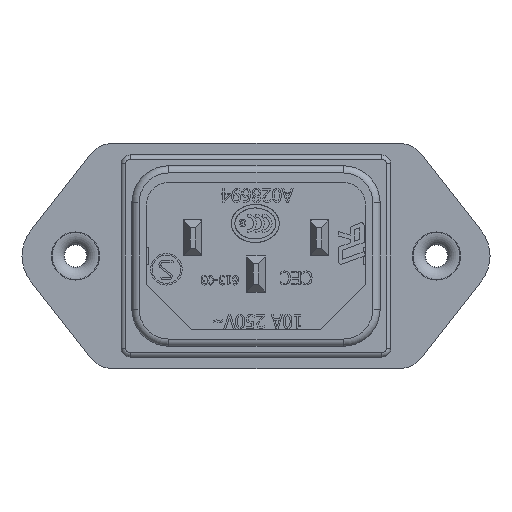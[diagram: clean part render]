
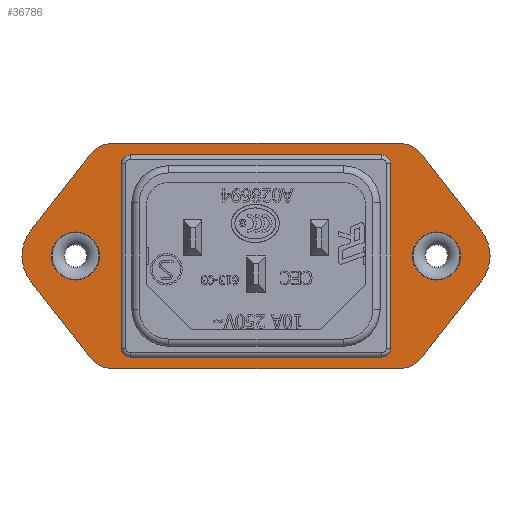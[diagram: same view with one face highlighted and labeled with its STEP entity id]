
A CAD part, front view. The second image highlights one B-rep face of the part: STEP entity #36786.
In plain terms, the highlighted planar face has unit normal (0, -1, 0).
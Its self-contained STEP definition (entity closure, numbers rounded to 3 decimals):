
#2384=LINE('',#50854,#6242);
#2388=LINE('',#50863,#6246);
#4877=LINE('',#61762,#8735);
#4880=LINE('',#61769,#8738);
#4946=LINE('',#61952,#8804);
#4947=LINE('',#61956,#8805);
#4948=LINE('',#61960,#8806);
#4949=LINE('',#61964,#8807);
#4950=LINE('',#61968,#8808);
#4951=LINE('',#61971,#8809);
#6242=VECTOR('',#41791,10.);
#6246=VECTOR('',#41801,10.);
#8735=VECTOR('',#46180,10.);
#8738=VECTOR('',#46189,10.);
#8804=VECTOR('',#46361,10.);
#8805=VECTOR('',#46364,10.);
#8806=VECTOR('',#46367,10.);
#8807=VECTOR('',#46370,10.);
#8808=VECTOR('',#46373,10.);
#8809=VECTOR('',#46376,10.);
#11021=FACE_BOUND('',#14812,.T.);
#11022=FACE_BOUND('',#14813,.T.);
#11023=FACE_BOUND('',#14814,.T.);
#12803=FACE_OUTER_BOUND('',#14811,.T.);
#14811=EDGE_LOOP('',(#33412,#33413,#33414,#33415,#33416,#33417,#33418,#33419,
#33420,#33421,#33422,#33423));
#14812=EDGE_LOOP('',(#33424,#33425,#33426,#33427,#33428,#33429,#33430,#33431));
#14813=EDGE_LOOP('',(#33432));
#14814=EDGE_LOOP('',(#33433));
#15155=CIRCLE('',#37714,1.);
#15156=CIRCLE('',#37717,1.);
#15248=CIRCLE('',#38659,1.);
#15249=CIRCLE('',#38662,1.);
#15270=CIRCLE('',#38714,2.664);
#15271=CIRCLE('',#38716,4.5);
#15272=CIRCLE('',#38717,3.281);
#15273=CIRCLE('',#38718,3.281);
#15274=CIRCLE('',#38719,4.5);
#15275=CIRCLE('',#38720,3.281);
#15276=CIRCLE('',#38721,3.281);
#15277=CIRCLE('',#38722,2.664);
#16439=VERTEX_POINT('',#50851);
#16440=VERTEX_POINT('',#50853);
#16441=VERTEX_POINT('',#50857);
#16442=VERTEX_POINT('',#50861);
#16443=VERTEX_POINT('',#50865);
#18545=VERTEX_POINT('',#61757);
#18546=VERTEX_POINT('',#61761);
#18547=VERTEX_POINT('',#61765);
#18608=VERTEX_POINT('',#61945);
#18609=VERTEX_POINT('',#61948);
#18610=VERTEX_POINT('',#61949);
#18611=VERTEX_POINT('',#61951);
#18612=VERTEX_POINT('',#61953);
#18613=VERTEX_POINT('',#61955);
#18614=VERTEX_POINT('',#61957);
#18615=VERTEX_POINT('',#61959);
#18616=VERTEX_POINT('',#61961);
#18617=VERTEX_POINT('',#61963);
#18618=VERTEX_POINT('',#61965);
#18619=VERTEX_POINT('',#61967);
#18620=VERTEX_POINT('',#61969);
#18621=VERTEX_POINT('',#61972);
#20300=EDGE_CURVE('',#16440,#16439,#2384,.T.);
#20303=EDGE_CURVE('',#16439,#16441,#15155,.T.);
#20305=EDGE_CURVE('',#16441,#16442,#2388,.T.);
#20307=EDGE_CURVE('',#16442,#16443,#15156,.T.);
#23485=EDGE_CURVE('',#18545,#16440,#15248,.T.);
#23487=EDGE_CURVE('',#18546,#18545,#4877,.T.);
#23489=EDGE_CURVE('',#18547,#18546,#15249,.T.);
#23491=EDGE_CURVE('',#16443,#18547,#4880,.T.);
#23577=EDGE_CURVE('',#18608,#18608,#15270,.T.);
#23578=EDGE_CURVE('',#18609,#18610,#15271,.T.);
#23579=EDGE_CURVE('',#18611,#18610,#4946,.T.);
#23580=EDGE_CURVE('',#18612,#18611,#15272,.T.);
#23581=EDGE_CURVE('',#18613,#18612,#4947,.T.);
#23582=EDGE_CURVE('',#18613,#18614,#15273,.T.);
#23583=EDGE_CURVE('',#18614,#18615,#4948,.T.);
#23584=EDGE_CURVE('',#18615,#18616,#15274,.T.);
#23585=EDGE_CURVE('',#18617,#18616,#4949,.T.);
#23586=EDGE_CURVE('',#18618,#18617,#15275,.T.);
#23587=EDGE_CURVE('',#18619,#18618,#4950,.T.);
#23588=EDGE_CURVE('',#18619,#18620,#15276,.T.);
#23589=EDGE_CURVE('',#18620,#18609,#4951,.T.);
#23590=EDGE_CURVE('',#18621,#18621,#15277,.T.);
#33412=ORIENTED_EDGE('',*,*,#23578,.T.);
#33413=ORIENTED_EDGE('',*,*,#23579,.F.);
#33414=ORIENTED_EDGE('',*,*,#23580,.F.);
#33415=ORIENTED_EDGE('',*,*,#23581,.F.);
#33416=ORIENTED_EDGE('',*,*,#23582,.T.);
#33417=ORIENTED_EDGE('',*,*,#23583,.T.);
#33418=ORIENTED_EDGE('',*,*,#23584,.T.);
#33419=ORIENTED_EDGE('',*,*,#23585,.F.);
#33420=ORIENTED_EDGE('',*,*,#23586,.F.);
#33421=ORIENTED_EDGE('',*,*,#23587,.F.);
#33422=ORIENTED_EDGE('',*,*,#23588,.T.);
#33423=ORIENTED_EDGE('',*,*,#23589,.T.);
#33424=ORIENTED_EDGE('',*,*,#20300,.T.);
#33425=ORIENTED_EDGE('',*,*,#20303,.T.);
#33426=ORIENTED_EDGE('',*,*,#20305,.T.);
#33427=ORIENTED_EDGE('',*,*,#20307,.T.);
#33428=ORIENTED_EDGE('',*,*,#23491,.T.);
#33429=ORIENTED_EDGE('',*,*,#23489,.T.);
#33430=ORIENTED_EDGE('',*,*,#23487,.T.);
#33431=ORIENTED_EDGE('',*,*,#23485,.T.);
#33432=ORIENTED_EDGE('',*,*,#23590,.F.);
#33433=ORIENTED_EDGE('',*,*,#23577,.F.);
#35005=PLANE('',#38715);
#36786=ADVANCED_FACE('',(#12803,#11021,#11022,#11023),#35005,.T.);
#37714=AXIS2_PLACEMENT_3D('',#50859,#41796,#41797);
#37717=AXIS2_PLACEMENT_3D('',#50867,#41805,#41806);
#38659=AXIS2_PLACEMENT_3D('',#61758,#46175,#46176);
#38662=AXIS2_PLACEMENT_3D('',#61766,#46184,#46185);
#38714=AXIS2_PLACEMENT_3D('',#61946,#46355,#46356);
#38715=AXIS2_PLACEMENT_3D('',#61947,#46357,#46358);
#38716=AXIS2_PLACEMENT_3D('',#61950,#46359,#46360);
#38717=AXIS2_PLACEMENT_3D('',#61954,#46362,#46363);
#38718=AXIS2_PLACEMENT_3D('',#61958,#46365,#46366);
#38719=AXIS2_PLACEMENT_3D('',#61962,#46368,#46369);
#38720=AXIS2_PLACEMENT_3D('',#61966,#46371,#46372);
#38721=AXIS2_PLACEMENT_3D('',#61970,#46374,#46375);
#38722=AXIS2_PLACEMENT_3D('',#61973,#46377,#46378);
#41791=DIRECTION('',(1.,0.,0.));
#41796=DIRECTION('center_axis',(0.,1.,0.));
#41797=DIRECTION('ref_axis',(-1.,0.,0.));
#41801=DIRECTION('',(0.,0.,-1.));
#41805=DIRECTION('center_axis',(0.,1.,0.));
#41806=DIRECTION('ref_axis',(0.,0.,
1.));
#46175=DIRECTION('center_axis',(0.,1.,0.));
#46176=DIRECTION('ref_axis',(0.,0.,
-1.));
#46180=DIRECTION('',(0.,0.,1.));
#46184=DIRECTION('center_axis',(0.,1.,0.));
#46185=DIRECTION('ref_axis',(1.,0.,0.));
#46189=DIRECTION('',(-1.,0.,0.));
#46355=DIRECTION('center_axis',(0.,-1.,0.));
#46356=DIRECTION('ref_axis',(-1.,0.,0.));
#46357=DIRECTION('center_axis',(0.,-1.,0.));
#46358=DIRECTION('ref_axis',(1.,0.,0.));
#46359=DIRECTION('center_axis',(0.,-1.,0.));
#46360=DIRECTION('ref_axis',(0.788,0.,-0.616));
#46361=DIRECTION('',(0.616,0.,-0.788));
#46362=DIRECTION('center_axis',(0.,1.,0.));
#46363=DIRECTION('ref_axis',(0.,0.,
1.));
#46364=DIRECTION('',(1.,0.,0.));
#46365=DIRECTION('center_axis',(0.,-1.,0.));
#46366=DIRECTION('ref_axis',(0.,0.,
1.));
#46367=DIRECTION('',(-0.616,0.,-0.788));
#46368=DIRECTION('center_axis',(0.,-1.,0.));
#46369=DIRECTION('ref_axis',(-0.788,0.,0.616));
#46370=DIRECTION('',(-0.616,0.,0.788));
#46371=DIRECTION('center_axis',(0.,1.,0.));
#46372=DIRECTION('ref_axis',(0.,0.,
-1.));
#46373=DIRECTION('',(-1.,0.,0.));
#46374=DIRECTION('center_axis',(0.,-1.,0.));
#46375=DIRECTION('ref_axis',(0.,0.,
-1.));
#46376=DIRECTION('',(0.616,0.,0.788));
#46377=DIRECTION('center_axis',(0.,-1.,0.));
#46378=DIRECTION('ref_axis',(1.,0.,0.));
#50851=CARTESIAN_POINT('',(3.847,-16.668,11.368));
#50853=CARTESIAN_POINT('',(-24.053,-16.668,11.368));
#50854=CARTESIAN_POINT('',(-23.716,-16.668,11.368));
#50857=CARTESIAN_POINT('',(4.847,-16.668,10.368));
#50859=CARTESIAN_POINT('Origin',(3.847,-16.668,10.368));
#50861=CARTESIAN_POINT('',(4.847,-16.668,-10.032));
#50863=CARTESIAN_POINT('',(4.847,-16.668,8.919));
#50865=CARTESIAN_POINT('',(3.847,-16.668,-11.032));
#50867=CARTESIAN_POINT('Origin',(3.847,-16.668,-10.032));
#61757=CARTESIAN_POINT('',(-25.053,-16.668,10.368));
#61758=CARTESIAN_POINT('Origin',(-24.053,-16.668,10.368));
#61761=CARTESIAN_POINT('',(-25.053,-16.668,-10.032));
#61762=CARTESIAN_POINT('',(-25.053,-16.668,-1.281));
#61765=CARTESIAN_POINT('',(-24.053,-16.668,-11.032));
#61766=CARTESIAN_POINT('Origin',(-24.053,-16.668,-10.032));
#61769=CARTESIAN_POINT('',(-9.766,-16.668,-11.032));
#61945=CARTESIAN_POINT('',(-27.439,-16.668,0.168));
#61946=CARTESIAN_POINT('Origin',(-30.103,-16.668,0.168));
#61947=CARTESIAN_POINT('Origin',(-23.378,-16.668,7.47));
#61948=CARTESIAN_POINT('',(14.868,-16.668,-2.602));
#61949=CARTESIAN_POINT('',(14.868,-16.668,2.939));
#61950=CARTESIAN_POINT('Origin',(11.322,-16.668,0.168));
#61951=CARTESIAN_POINT('',(8.251,-16.668,11.407));
#61952=CARTESIAN_POINT('',(8.251,-16.668,11.407));
#61953=CARTESIAN_POINT('',(5.666,-16.668,12.668));
#61954=CARTESIAN_POINT('Origin',(5.666,-16.668,9.387));
#61955=CARTESIAN_POINT('',(-25.872,-16.668,12.668));
#61956=CARTESIAN_POINT('',(-10.103,-16.668,12.668));
#61957=CARTESIAN_POINT('',(-28.458,-16.668,11.407));
#61958=CARTESIAN_POINT('Origin',(-25.872,-16.668,9.387));
#61959=CARTESIAN_POINT('',(-35.074,-16.668,2.939));
#61960=CARTESIAN_POINT('',(-28.458,-16.668,11.407));
#61961=CARTESIAN_POINT('',(-35.074,-16.668,-2.602));
#61962=CARTESIAN_POINT('Origin',(-31.528,-16.668,0.168));
#61963=CARTESIAN_POINT('',(-28.458,-16.668,-11.071));
#61964=CARTESIAN_POINT('',(-28.458,-16.668,-11.071));
#61965=CARTESIAN_POINT('',(-25.872,-16.668,-12.332));
#61966=CARTESIAN_POINT('Origin',(-25.872,-16.668,-9.051));
#61967=CARTESIAN_POINT('',(5.666,-16.668,-12.332));
#61968=CARTESIAN_POINT('',(-10.103,-16.668,-12.332));
#61969=CARTESIAN_POINT('',(8.251,-16.668,-11.071));
#61970=CARTESIAN_POINT('Origin',(5.666,-16.668,-9.051));
#61971=CARTESIAN_POINT('',(8.251,-16.668,-11.071));
#61972=CARTESIAN_POINT('',(7.233,-16.668,0.168));
#61973=CARTESIAN_POINT('Origin',(9.897,-16.668,0.168));
